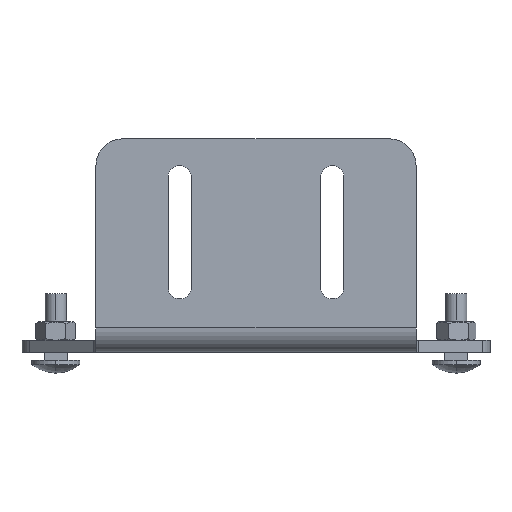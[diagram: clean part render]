
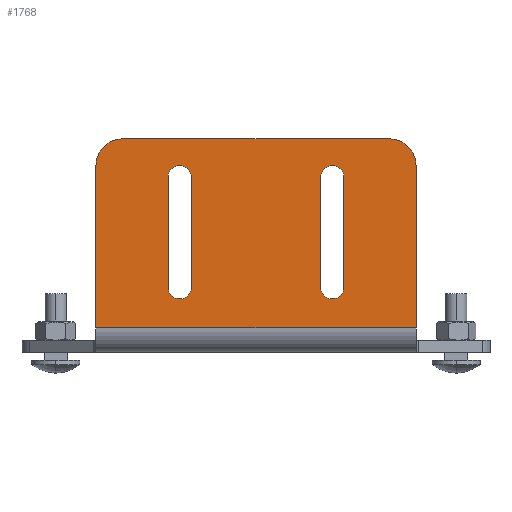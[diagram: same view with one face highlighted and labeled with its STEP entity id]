
A CAD part, front view. The second image highlights one B-rep face of the part: STEP entity #1768.
In plain terms, the highlighted planar face has unit normal (0, -1, 0).
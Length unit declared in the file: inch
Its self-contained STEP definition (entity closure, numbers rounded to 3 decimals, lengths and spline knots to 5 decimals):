
#736=DIRECTION('',(0.,0.,-1.));
#737=VECTOR('',#736,2.39791);
#738=CARTESIAN_POINT('',(2.3622,-0.358,-0.179));
#739=LINE('',#738,#737);
#740=CARTESIAN_POINT('',(-1.9685,-0.358,-2.57691));
#741=DIRECTION('',(0.,-1.,0.));
#742=DIRECTION('',(-1.,0.,0.));
#743=AXIS2_PLACEMENT_3D('',#740,#741,#742);
#745=CARTESIAN_POINT('',(1.9685,-0.358,-2.57691));
#746=DIRECTION('',(0.,-1.,0.));
#747=DIRECTION('',(0.,0.,-1.));
#748=AXIS2_PLACEMENT_3D('',#745,#746,#747);
#750=CARTESIAN_POINT('',(1.125,-0.358,-0.78041));
#751=DIRECTION('',(0.,1.,0.));
#752=DIRECTION('',(0.,0.,1.));
#753=AXIS2_PLACEMENT_3D('',#750,#751,#752);
#755=CARTESIAN_POINT('',(1.125,-0.358,-0.78041));
#756=DIRECTION('',(0.,1.,0.));
#757=DIRECTION('',(-1.,0.,0.));
#758=AXIS2_PLACEMENT_3D('',#755,#756,#757);
#760=DIRECTION('',(0.,0.,1.));
#761=VECTOR('',#760,1.62449);
#762=CARTESIAN_POINT('',(0.95299,-0.358,-2.4049));
#763=LINE('',#762,#761);
#764=CARTESIAN_POINT('',(1.125,-0.358,-2.4049));
#765=DIRECTION('',(0.,1.,0.));
#766=DIRECTION('',(0.,0.,-1.));
#767=AXIS2_PLACEMENT_3D('',#764,#765,#766);
#769=CARTESIAN_POINT('',(1.125,-0.358,-2.4049));
#770=DIRECTION('',(0.,1.,0.));
#771=DIRECTION('',(1.,0.,0.));
#772=AXIS2_PLACEMENT_3D('',#769,#770,#771);
#774=DIRECTION('',(0.,0.,1.));
#775=VECTOR('',#774,1.62449);
#776=CARTESIAN_POINT('',(-1.29701,-0.358,-2.4049));
#777=LINE('',#776,#775);
#778=CARTESIAN_POINT('',(-1.125,-0.358,-2.4049));
#779=DIRECTION('',(0.,1.,0.));
#780=DIRECTION('',(0.,0.,-1.));
#781=AXIS2_PLACEMENT_3D('',#778,#779,#780);
#783=CARTESIAN_POINT('',(-1.125,-0.358,-2.4049));
#784=DIRECTION('',(0.,1.,0.));
#785=DIRECTION('',(1.,0.,0.));
#786=AXIS2_PLACEMENT_3D('',#783,#784,#785);
#788=CARTESIAN_POINT('',(-1.125,-0.358,-0.78041));
#789=DIRECTION('',(0.,1.,0.));
#790=DIRECTION('',(0.,0.,1.));
#791=AXIS2_PLACEMENT_3D('',#788,#789,#790);
#793=CARTESIAN_POINT('',(-1.125,-0.358,-0.78041));
#794=DIRECTION('',(0.,1.,0.));
#795=DIRECTION('',(-1.,0.,0.));
#796=AXIS2_PLACEMENT_3D('',#793,#794,#795);
#798=DIRECTION('',(-1.,0.,0.));
#799=VECTOR('',#798,3.93701);
#800=CARTESIAN_POINT('',(1.9685,-0.358,-2.97061));
#801=LINE('',#800,#799);
#910=DIRECTION('',(1.,0.,0.));
#911=VECTOR('',#910,4.72441);
#912=CARTESIAN_POINT('',(-2.3622,-0.358,-0.179));
#913=LINE('',#912,#911);
#918=DIRECTION('',(0.,0.,1.));
#919=VECTOR('',#918,2.39791);
#920=CARTESIAN_POINT('',(-2.3622,-0.358,-2.57691));
#921=LINE('',#920,#919);
#938=DIRECTION('',(0.,0.,1.));
#939=VECTOR('',#938,1.62449);
#940=CARTESIAN_POINT('',(1.29701,-0.358,-2.4049));
#941=LINE('',#940,#939);
#990=DIRECTION('',(0.,0.,1.));
#991=VECTOR('',#990,1.62449);
#992=CARTESIAN_POINT('',(-0.95299,-0.358,-2.4049));
#993=LINE('',#992,#991);
#1128=CARTESIAN_POINT('',(0.95299,-0.358,-0.78041));
#1129=CARTESIAN_POINT('',(1.125,-0.358,-0.6084));
#1130=VERTEX_POINT('',#1128);
#1131=VERTEX_POINT('',#1129);
#1160=CARTESIAN_POINT('',(1.29701,-0.358,-2.4049));
#1161=CARTESIAN_POINT('',(1.125,-0.358,-2.57691));
#1162=VERTEX_POINT('',#1160);
#1163=VERTEX_POINT('',#1161);
#1164=CARTESIAN_POINT('',(0.95299,-0.358,-2.4049));
#1165=VERTEX_POINT('',#1164);
#1167=CARTESIAN_POINT('',(-1.29701,-0.358,-2.4049));
#1169=VERTEX_POINT('',#1167);
#1192=CARTESIAN_POINT('',(-1.29701,-0.358,-0.78041));
#1193=CARTESIAN_POINT('',(-1.125,-0.358,-0.6084));
#1194=VERTEX_POINT('',#1192);
#1195=VERTEX_POINT('',#1193);
#1203=CARTESIAN_POINT('',(1.29701,-0.358,-0.78041));
#1205=VERTEX_POINT('',#1203);
#1211=CARTESIAN_POINT('',(2.3622,-0.358,-2.57691));
#1213=VERTEX_POINT('',#1211);
#1226=CARTESIAN_POINT('',(2.3622,-0.358,-0.179));
#1227=VERTEX_POINT('',#1226);
#1256=CARTESIAN_POINT('',(-2.3622,-0.358,-0.179));
#1257=VERTEX_POINT('',#1256);
#1266=CARTESIAN_POINT('',(-0.95299,-0.358,-2.4049));
#1267=CARTESIAN_POINT('',(-1.125,-0.358,-2.57691));
#1268=VERTEX_POINT('',#1266);
#1269=VERTEX_POINT('',#1267);
#1284=CARTESIAN_POINT('',(-0.95299,-0.358,-0.78041));
#1285=VERTEX_POINT('',#1284);
#1302=CARTESIAN_POINT('',(1.9685,-0.358,-2.97061));
#1303=VERTEX_POINT('',#1302);
#1326=CARTESIAN_POINT('',(-1.9685,-0.358,-2.97061));
#1327=VERTEX_POINT('',#1326);
#1330=CARTESIAN_POINT('',(-2.3622,-0.358,-2.57691));
#1331=VERTEX_POINT('',#1330);
#1722=CARTESIAN_POINT('',(0.,-0.358,0.));
#1723=DIRECTION('',(0.,1.,0.));
#1724=DIRECTION('',(0.,0.,1.));
#1725=AXIS2_PLACEMENT_3D('',#1722,#1723,#1724);
#1726=PLANE('',#1725);
#1728=ORIENTED_EDGE('',*,*,#1727,.T.);
#1730=ORIENTED_EDGE('',*,*,#1729,.F.);
#1732=ORIENTED_EDGE('',*,*,#1731,.T.);
#1734=ORIENTED_EDGE('',*,*,#1733,.T.);
#1735=ORIENTED_EDGE('',*,*,#1712,.T.);
#1737=ORIENTED_EDGE('',*,*,#1736,.F.);
#1738=EDGE_LOOP('',(#1728,#1730,#1732,#1734,#1735,#1737));
#1739=FACE_OUTER_BOUND('',#1738,.F.);
#1741=ORIENTED_EDGE('',*,*,#1740,.T.);
#1743=ORIENTED_EDGE('',*,*,#1742,.F.);
#1745=ORIENTED_EDGE('',*,*,#1744,.F.);
#1747=ORIENTED_EDGE('',*,*,#1746,.F.);
#1749=ORIENTED_EDGE('',*,*,#1748,.F.);
#1751=ORIENTED_EDGE('',*,*,#1750,.F.);
#1752=EDGE_LOOP('',(#1741,#1743,#1745,#1747,#1749,#1751));
#1753=FACE_BOUND('',#1752,.F.);
#1755=ORIENTED_EDGE('',*,*,#1754,.F.);
#1757=ORIENTED_EDGE('',*,*,#1756,.F.);
#1759=ORIENTED_EDGE('',*,*,#1758,.F.);
#1761=ORIENTED_EDGE('',*,*,#1760,.T.);
#1763=ORIENTED_EDGE('',*,*,#1762,.F.);
#1765=ORIENTED_EDGE('',*,*,#1764,.F.);
#1766=EDGE_LOOP('',(#1755,#1757,#1759,#1761,#1763,#1765));
#1767=FACE_BOUND('',#1766,.F.);
#744=CIRCLE('',#743,0.3937);
#749=CIRCLE('',#748,0.3937);
#754=CIRCLE('',#753,0.17201);
#759=CIRCLE('',#758,0.17201);
#768=CIRCLE('',#767,0.17201);
#773=CIRCLE('',#772,0.17201);
#782=CIRCLE('',#781,0.17201);
#787=CIRCLE('',#786,0.17201);
#792=CIRCLE('',#791,0.17201);
#797=CIRCLE('',#796,0.17201);
#1712=EDGE_CURVE('',#1227,#1213,#739,.T.);
#1727=EDGE_CURVE('',#1303,#1327,#801,.T.);
#1729=EDGE_CURVE('',#1331,#1327,#744,.T.);
#1731=EDGE_CURVE('',#1331,#1257,#921,.T.);
#1733=EDGE_CURVE('',#1257,#1227,#913,.T.);
#1736=EDGE_CURVE('',#1303,#1213,#749,.T.);
#1740=EDGE_CURVE('',#1162,#1205,#941,.T.);
#1742=EDGE_CURVE('',#1131,#1205,#754,.T.);
#1744=EDGE_CURVE('',#1130,#1131,#759,.T.);
#1746=EDGE_CURVE('',#1165,#1130,#763,.T.);
#1748=EDGE_CURVE('',#1163,#1165,#768,.T.);
#1750=EDGE_CURVE('',#1162,#1163,#773,.T.);
#1754=EDGE_CURVE('',#1169,#1194,#777,.T.);
#1756=EDGE_CURVE('',#1269,#1169,#782,.T.);
#1758=EDGE_CURVE('',#1268,#1269,#787,.T.);
#1760=EDGE_CURVE('',#1268,#1285,#993,.T.);
#1762=EDGE_CURVE('',#1195,#1285,#792,.T.);
#1764=EDGE_CURVE('',#1194,#1195,#797,.T.);
#1768=ADVANCED_FACE('',(#1739,#1753,#1767),#1726,.F.);
